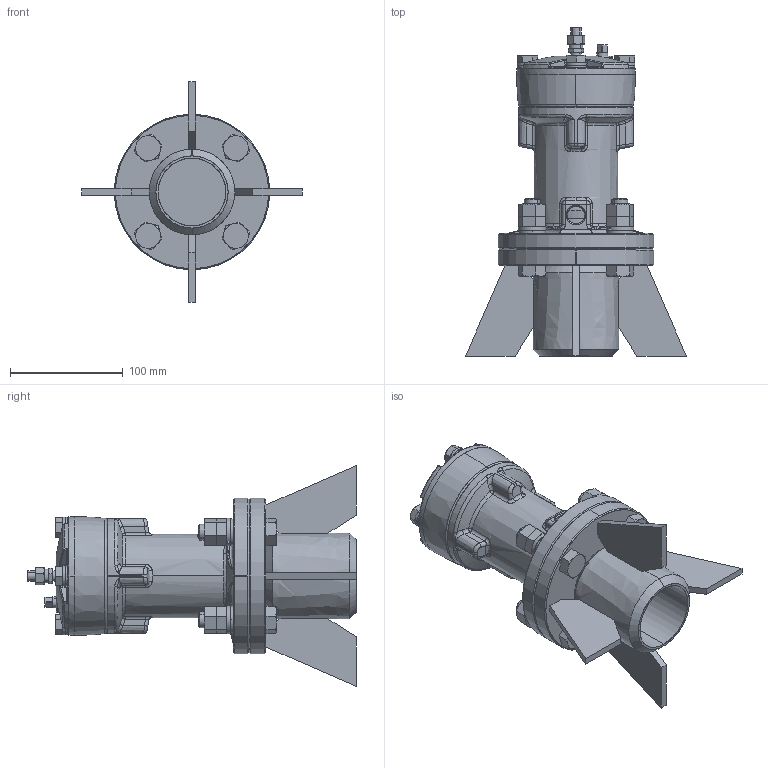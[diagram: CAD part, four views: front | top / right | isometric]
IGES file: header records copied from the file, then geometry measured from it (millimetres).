
Start section: SolidWorks IGES file using analytic representation for surfaces
Global section: file name: V:\WORK\08133\HP 寸法図\knocker\RKV60PB\test_K71000A-000 RKV60PB_defeature.IGS,15; native system: HSolidWorks 2018; preprocessor: SolidWorks 2018; author: n-udagawa; date: 230116.105025; units: millimetre
Bounding box: 196 x 291.21 x 196 mm (x, y, z)
Surface area: 174074.5 mm2 (no closed solid volume)
Topology: 0 solids, 0 shells, 849 faces, 12406 edges, 14386 vertices
Faces by surface type: bspline 554, revolution 295
